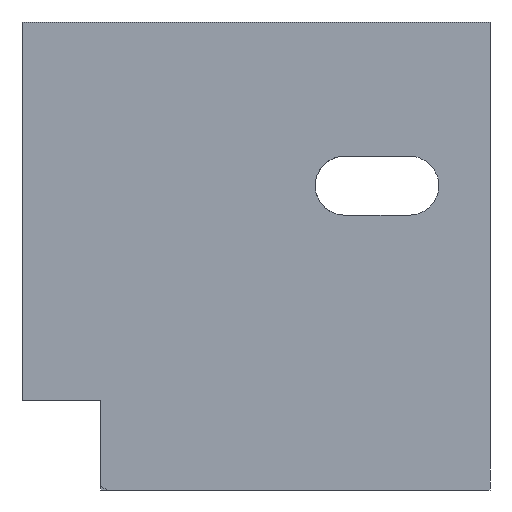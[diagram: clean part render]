
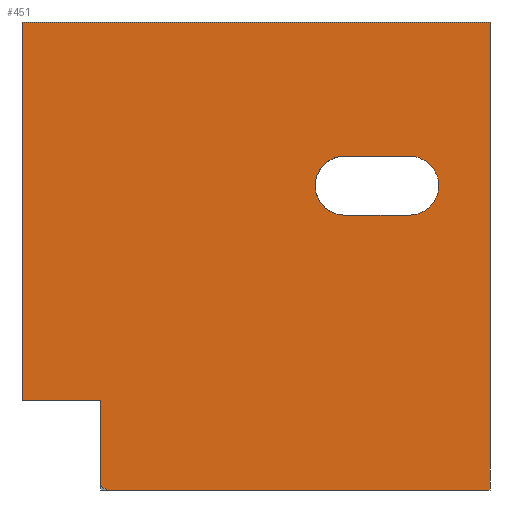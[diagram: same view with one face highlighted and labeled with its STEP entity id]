
A CAD part, front view. The second image highlights one B-rep face of the part: STEP entity #451.
In plain terms, the highlighted planar face has unit normal (0, -1, 0).
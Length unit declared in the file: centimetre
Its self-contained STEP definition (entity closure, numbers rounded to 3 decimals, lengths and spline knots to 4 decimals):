
#3 = CARTESIAN_POINT ( 'NONE',  ( 167.8249, 0., 192.2127 ) ) ;
#61 = VECTOR ( 'NONE', #411, 100. ) ;
#71 = PLANE ( 'NONE',  #744 ) ;
#79 = VERTEX_POINT ( 'NONE', #787 ) ;
#178 = VERTEX_POINT ( 'NONE', #749 ) ;
#185 = LINE ( 'NONE', #966, #1114 ) ;
#222 = AXIS2_PLACEMENT_3D ( 'NONE', #1387, #1020, #1543 ) ;
#223 = VERTEX_POINT ( 'NONE', #434 ) ;
#237 = EDGE_CURVE ( 'NONE', #1207, #1196, #1900, .T. ) ;
#240 = DIRECTION ( 'NONE',  ( 0., 0., 1. ) ) ;
#262 = VECTOR ( 'NONE', #1777, 100. ) ;
#270 = LINE ( 'NONE', #1439, #760 ) ;
#279 = CIRCLE ( 'NONE', #222, 63.0312 ) ;
#307 = EDGE_CURVE ( 'NONE', #1196, #1097, #185, .T. ) ;
#411 = DIRECTION ( 'NONE',  ( -1., 0., 0. ) ) ;
#419 = ORIENTED_EDGE ( 'NONE', *, *, #2003, .T. ) ;
#432 = ORIENTED_EDGE ( 'NONE', *, *, #875, .T. ) ;
#434 = CARTESIAN_POINT ( 'NONE',  ( 827.5341, 0., 587.29 ) ) ;
#442 = VECTOR ( 'NONE', #841, 100. ) ;
#451 = ADVANCED_FACE ( 'NONE', ( #1012, #700 ), #71, .F. ) ;
#453 = CARTESIAN_POINT ( 'NONE',  ( 167.8249, 0., 192.2127 ) ) ;
#472 = LINE ( 'NONE', #776, #1022 ) ;
#476 = CARTESIAN_POINT ( 'NONE',  ( 1000., 0., 0. ) ) ;
#540 = CARTESIAN_POINT ( 'NONE',  ( 0., 0., 1000. ) ) ;
#563 = CIRCLE ( 'NONE', #1542, 63.0312 ) ;
#565 = DIRECTION ( 'NONE',  ( 0., 1., 0. ) ) ;
#566 = EDGE_LOOP ( 'NONE', ( #419, #1813, #783, #1652, #1194, #1158, #2071 ) ) ;
#692 = VERTEX_POINT ( 'NONE', #849 ) ;
#700 = FACE_OUTER_BOUND ( 'NONE', #566, .T. ) ;
#738 = DIRECTION ( 'NONE',  ( 1., 0., 0. ) ) ;
#739 = VERTEX_POINT ( 'NONE', #1550 ) ;
#744 = AXIS2_PLACEMENT_3D ( 'NONE', #540, #1175, #240 ) ;
#746 = LINE ( 'NONE', #1689, #1242 ) ;
#749 = CARTESIAN_POINT ( 'NONE',  ( 689.396, 0., 713.3524 ) ) ;
#760 = VECTOR ( 'NONE', #1588, 100. ) ;
#776 = CARTESIAN_POINT ( 'NONE',  ( 1000., 0., 1000. ) ) ;
#783 = ORIENTED_EDGE ( 'NONE', *, *, #237, .F. ) ;
#787 = CARTESIAN_POINT ( 'NONE',  ( 689.396, 0., 587.29 ) ) ;
#798 = ORIENTED_EDGE ( 'NONE', *, *, #1443, .T. ) ;
#841 = DIRECTION ( 'NONE',  ( 0., 0., 1. ) ) ;
#849 = CARTESIAN_POINT ( 'NONE',  ( 182.161, 0., 0. ) ) ;
#875 = EDGE_CURVE ( 'NONE', #223, #79, #1364, .T. ) ;
#966 = CARTESIAN_POINT ( 'NONE',  ( 167.8249, 0., 192.2127 ) ) ;
#977 = EDGE_CURVE ( 'NONE', #692, #1207, #270, .T. ) ;
#982 = LINE ( 'NONE', #1629, #262 ) ;
#1000 = CARTESIAN_POINT ( 'NONE',  ( 0., 0., 1000. ) ) ;
#1012 = FACE_BOUND ( 'NONE', #1719, .T. ) ;
#1020 = DIRECTION ( 'NONE',  ( 0., 1., 0. ) ) ;
#1022 = VECTOR ( 'NONE', #1094, 100. ) ;
#1033 = DIRECTION ( 'NONE',  ( 1., 0., 0. ) ) ;
#1038 = CARTESIAN_POINT ( 'NONE',  ( 167.8249, 0., 8.1142 ) ) ;
#1068 = CARTESIAN_POINT ( 'NONE',  ( 1000., 0., 1000. ) ) ;
#1094 = DIRECTION ( 'NONE',  ( 0., 0., -1. ) ) ;
#1097 = VERTEX_POINT ( 'NONE', #1566 ) ;
#1114 = VECTOR ( 'NONE', #1762, 100. ) ;
#1158 = ORIENTED_EDGE ( 'NONE', *, *, #1764, .F. ) ;
#1162 = EDGE_CURVE ( 'NONE', #178, #739, #982, .T. ) ;
#1175 = DIRECTION ( 'NONE',  ( 0., 1., 0. ) ) ;
#1184 = ORIENTED_EDGE ( 'NONE', *, *, #1162, .T. ) ;
#1192 = CARTESIAN_POINT ( 'NONE',  ( 0., 0., 1000. ) ) ;
#1194 = ORIENTED_EDGE ( 'NONE', *, *, #2055, .T. ) ;
#1196 = VERTEX_POINT ( 'NONE', #3 ) ;
#1207 = VERTEX_POINT ( 'NONE', #1038 ) ;
#1218 = VERTEX_POINT ( 'NONE', #1068 ) ;
#1242 = VECTOR ( 'NONE', #738, 100. ) ;
#1250 = EDGE_CURVE ( 'NONE', #739, #223, #563, .T. ) ;
#1351 = CARTESIAN_POINT ( 'NONE',  ( 689.396, 0., 587.29 ) ) ;
#1364 = LINE ( 'NONE', #1351, #61 ) ;
#1369 = ORIENTED_EDGE ( 'NONE', *, *, #1250, .T. ) ;
#1383 = VECTOR ( 'NONE', #1646, 100. ) ;
#1387 = CARTESIAN_POINT ( 'NONE',  ( 689.396, 0., 650.3212 ) ) ;
#1389 = VERTEX_POINT ( 'NONE', #476 ) ;
#1391 = DIRECTION ( 'NONE',  ( 0., 0., -1. ) ) ;
#1428 = VERTEX_POINT ( 'NONE', #1556 ) ;
#1439 = CARTESIAN_POINT ( 'NONE',  ( 0., 0., 103.1023 ) ) ;
#1443 = EDGE_CURVE ( 'NONE', #79, #178, #279, .T. ) ;
#1473 = EDGE_CURVE ( 'NONE', #1428, #1218, #1817, .T. ) ;
#1505 = CARTESIAN_POINT ( 'NONE',  ( 827.5341, 0., 650.3212 ) ) ;
#1542 = AXIS2_PLACEMENT_3D ( 'NONE', #1505, #565, #1391 ) ;
#1543 = DIRECTION ( 'NONE',  ( 0., 0., -1. ) ) ;
#1550 = CARTESIAN_POINT ( 'NONE',  ( 827.5341, 0., 713.3524 ) ) ;
#1556 = CARTESIAN_POINT ( 'NONE',  ( 0., 0., 1000. ) ) ;
#1566 = CARTESIAN_POINT ( 'NONE',  ( 0., 0., 192.2127 ) ) ;
#1588 = DIRECTION ( 'NONE',  ( -0.87, 0., 0.493 ) ) ;
#1629 = CARTESIAN_POINT ( 'NONE',  ( 827.5341, 0., 713.3524 ) ) ;
#1646 = DIRECTION ( 'NONE',  ( 0., 0., -1. ) ) ;
#1652 = ORIENTED_EDGE ( 'NONE', *, *, #977, .F. ) ;
#1656 = LINE ( 'NONE', #1000, #1383 ) ;
#1689 = CARTESIAN_POINT ( 'NONE',  ( 0., 0., 0. ) ) ;
#1719 = EDGE_LOOP ( 'NONE', ( #432, #798, #1184, #1369 ) ) ;
#1762 = DIRECTION ( 'NONE',  ( -1., 0., 0. ) ) ;
#1764 = EDGE_CURVE ( 'NONE', #1218, #1389, #472, .T. ) ;
#1777 = DIRECTION ( 'NONE',  ( 1., 0., 0. ) ) ;
#1813 = ORIENTED_EDGE ( 'NONE', *, *, #307, .F. ) ;
#1817 = LINE ( 'NONE', #1192, #1835 ) ;
#1835 = VECTOR ( 'NONE', #1033, 100. ) ;
#1900 = LINE ( 'NONE', #453, #442 ) ;
#2003 = EDGE_CURVE ( 'NONE', #1428, #1097, #1656, .T. ) ;
#2055 = EDGE_CURVE ( 'NONE', #692, #1389, #746, .T. ) ;
#2071 = ORIENTED_EDGE ( 'NONE', *, *, #1473, .F. ) ;
